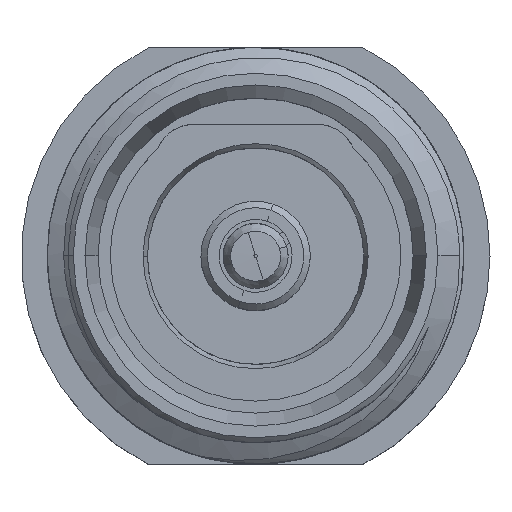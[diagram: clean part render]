
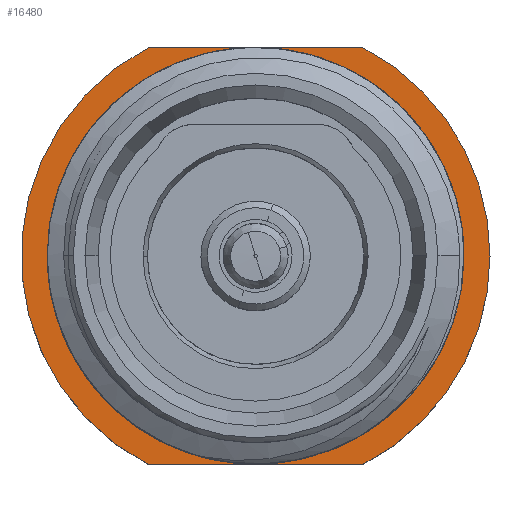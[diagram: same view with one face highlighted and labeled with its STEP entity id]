
A CAD part, top view. The second image highlights one B-rep face of the part: STEP entity #16480.
In plain terms, the highlighted planar face has unit normal (0, 0, 1).
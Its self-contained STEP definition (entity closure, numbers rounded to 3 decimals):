
#96 = DIRECTION ( 'NONE',  ( 1., 0., 0. ) ) ;
#1369 = CIRCLE ( 'NONE', #16485, 7.85 ) ;
#2088 = CIRCLE ( 'NONE', #12055, 9. ) ;
#2185 = EDGE_LOOP ( 'NONE', ( #12554, #4859 ) ) ;
#2543 = VERTEX_POINT ( 'NONE', #13235 ) ;
#3007 = VERTEX_POINT ( 'NONE', #4388 ) ;
#3030 = DIRECTION ( 'NONE',  ( -1., 0., 0. ) ) ;
#3190 = ORIENTED_EDGE ( 'NONE', *, *, #13723, .F. ) ;
#3309 = VERTEX_POINT ( 'NONE', #6425 ) ;
#3441 = DIRECTION ( 'NONE',  ( 1., 0., 0. ) ) ;
#3623 = CARTESIAN_POINT ( 'NONE',  ( 9., 0., 1.25 ) ) ;
#4248 = EDGE_CURVE ( 'NONE', #4308, #2543, #15263, .T. ) ;
#4308 = VERTEX_POINT ( 'NONE', #6962 ) ;
#4388 = CARTESIAN_POINT ( 'NONE',  ( -7.85, 0., 1.25 ) ) ;
#4508 = DIRECTION ( 'NONE',  ( 1., 0., 0. ) ) ;
#4592 = ORIENTED_EDGE ( 'NONE', *, *, #10851, .T. ) ;
#4596 = LINE ( 'NONE', #12990, #5791 ) ;
#4640 = CARTESIAN_POINT ( 'NONE',  ( 0., 0., 1.25 ) ) ;
#4859 = ORIENTED_EDGE ( 'NONE', *, *, #5441, .F. ) ;
#5441 = EDGE_CURVE ( 'NONE', #3007, #3309, #15909, .T. ) ;
#5596 = ORIENTED_EDGE ( 'NONE', *, *, #14800, .T. ) ;
#5791 = VECTOR ( 'NONE', #4508, 1000. ) ;
#5908 = EDGE_CURVE ( 'NONE', #3309, #3007, #1369, .T. ) ;
#5952 = DIRECTION ( 'NONE',  ( 1., 0., 0. ) ) ;
#6194 = AXIS2_PLACEMENT_3D ( 'NONE', #4640, #7143, #8760 ) ;
#6425 = CARTESIAN_POINT ( 'NONE',  ( 7.85, 0., 1.25 ) ) ;
#6708 = DIRECTION ( 'NONE',  ( 0., 0., 1. ) ) ;
#6962 = CARTESIAN_POINT ( 'NONE',  ( 4.123, -8., 1.25 ) ) ;
#7097 = AXIS2_PLACEMENT_3D ( 'NONE', #15015, #6708, #96 ) ;
#7143 = DIRECTION ( 'NONE',  ( 0., 0., 1. ) ) ;
#7222 = AXIS2_PLACEMENT_3D ( 'NONE', #12310, #8391, #15437 ) ;
#7492 = CIRCLE ( 'NONE', #11467, 9. ) ;
#8391 = DIRECTION ( 'NONE',  ( 0., 0., -1. ) ) ;
#8531 = CIRCLE ( 'NONE', #7097, 9. ) ;
#8760 = DIRECTION ( 'NONE',  ( 1., 0., 0. ) ) ;
#9729 = FACE_BOUND ( 'NONE', #2185, .T. ) ;
#10112 = CARTESIAN_POINT ( 'NONE',  ( -4.123, 8., 1.25 ) ) ;
#10154 = VERTEX_POINT ( 'NONE', #11646 ) ;
#10308 = CARTESIAN_POINT ( 'NONE',  ( 0., 0., 1.25 ) ) ;
#10481 = ORIENTED_EDGE ( 'NONE', *, *, #15508, .T. ) ;
#10851 = EDGE_CURVE ( 'NONE', #12454, #2543, #8531, .T. ) ;
#11143 = PLANE ( 'NONE',  #7222 ) ;
#11467 = AXIS2_PLACEMENT_3D ( 'NONE', #15233, #12280, #13800 ) ;
#11646 = CARTESIAN_POINT ( 'NONE',  ( 4.123, 8., 1.25 ) ) ;
#12055 = AXIS2_PLACEMENT_3D ( 'NONE', #14158, #15415, #5952 ) ;
#12105 = VERTEX_POINT ( 'NONE', #3623 ) ;
#12280 = DIRECTION ( 'NONE',  ( 0., 0., 1. ) ) ;
#12310 = CARTESIAN_POINT ( 'NONE',  ( 0., 7.85, 1.25 ) ) ;
#12454 = VERTEX_POINT ( 'NONE', #10112 ) ;
#12554 = ORIENTED_EDGE ( 'NONE', *, *, #5908, .F. ) ;
#12990 = CARTESIAN_POINT ( 'NONE',  ( 0., 8., 1.25 ) ) ;
#13235 = CARTESIAN_POINT ( 'NONE',  ( -4.123, -8., 1.25 ) ) ;
#13723 = EDGE_CURVE ( 'NONE', #12454, #10154, #4596, .T. ) ;
#13800 = DIRECTION ( 'NONE',  ( 1., 0., 0. ) ) ;
#14158 = CARTESIAN_POINT ( 'NONE',  ( 0., 0., 1.25 ) ) ;
#14502 = DIRECTION ( 'NONE',  ( 0., 0., 1. ) ) ;
#14800 = EDGE_CURVE ( 'NONE', #12105, #10154, #7492, .T. ) ;
#14947 = ORIENTED_EDGE ( 'NONE', *, *, #4248, .F. ) ;
#15015 = CARTESIAN_POINT ( 'NONE',  ( 0., 0., 1.25 ) ) ;
#15094 = CARTESIAN_POINT ( 'NONE',  ( 0., -8., 1.25 ) ) ;
#15233 = CARTESIAN_POINT ( 'NONE',  ( 0., 0., 1.25 ) ) ;
#15263 = LINE ( 'NONE', #15094, #16740 ) ;
#15415 = DIRECTION ( 'NONE',  ( 0., 0., 1. ) ) ;
#15437 = DIRECTION ( 'NONE',  ( -1., 0., 0. ) ) ;
#15508 = EDGE_CURVE ( 'NONE', #4308, #12105, #2088, .T. ) ;
#15909 = CIRCLE ( 'NONE', #6194, 7.85 ) ;
#16440 = FACE_OUTER_BOUND ( 'NONE', #16922, .T. ) ;
#16480 = ADVANCED_FACE ( 'NONE', ( #9729, #16440 ), #11143, .F. ) ;
#16485 = AXIS2_PLACEMENT_3D ( 'NONE', #10308, #14502, #3441 ) ;
#16740 = VECTOR ( 'NONE', #3030, 1000. ) ;
#16922 = EDGE_LOOP ( 'NONE', ( #14947, #10481, #5596, #3190, #4592 ) ) ;
